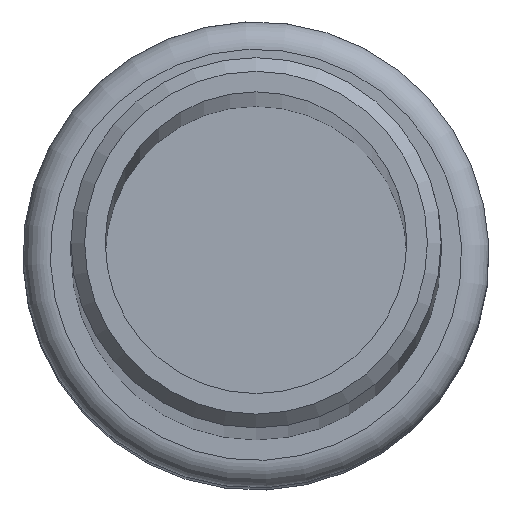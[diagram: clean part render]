
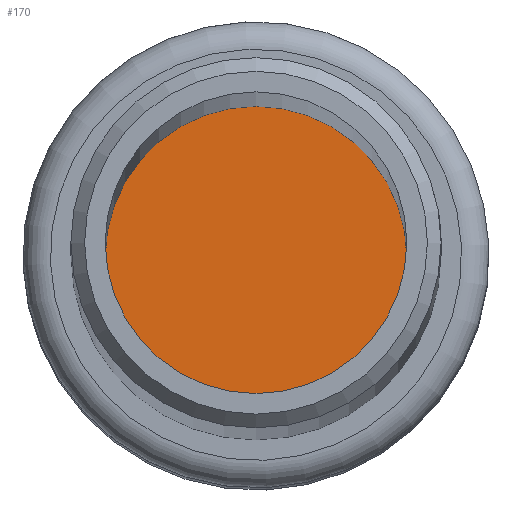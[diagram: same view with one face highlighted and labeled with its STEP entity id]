
A CAD part, top view. The second image highlights one B-rep face of the part: STEP entity #170.
In plain terms, the highlighted planar face has unit normal (0, 0, 1).
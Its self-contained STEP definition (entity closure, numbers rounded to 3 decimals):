
#33=ORIENTED_EDGE('',*,*,#63,.T.);
#63=EDGE_CURVE('',#78,#78,#93,.T.);
#78=VERTEX_POINT('',#287);
#93=CIRCLE('',#199,11.);
#106=EDGE_LOOP('',(#33));
#136=FACE_BOUND('',#106,.T.);
#166=PLANE('',#198);
#170=ADVANCED_FACE('',(#136),#166,.F.);
#198=AXIS2_PLACEMENT_3D('',#285,#228,#229);
#199=AXIS2_PLACEMENT_3D('',#286,#230,#231);
#228=DIRECTION('',(0.,0.,-1.));
#229=DIRECTION('',(-0.924,-0.383,0.));
#230=DIRECTION('',(0.,0.,1.));
#231=DIRECTION('',(1.,0.,0.));
#285=CARTESIAN_POINT('',(0.,0.,-600.));
#286=CARTESIAN_POINT('',(0.,0.,-600.));
#287=CARTESIAN_POINT('',(11.,0.,-600.));
